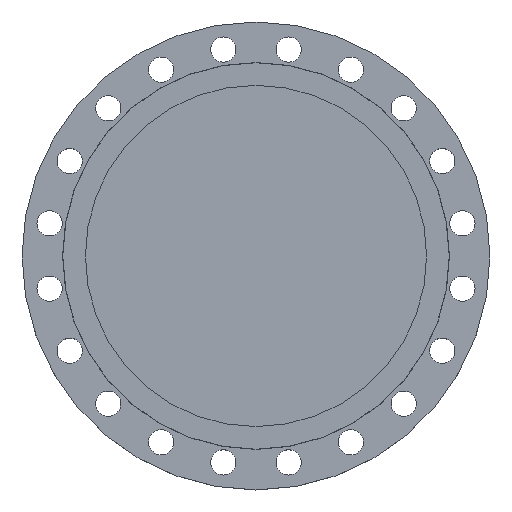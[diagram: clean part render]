
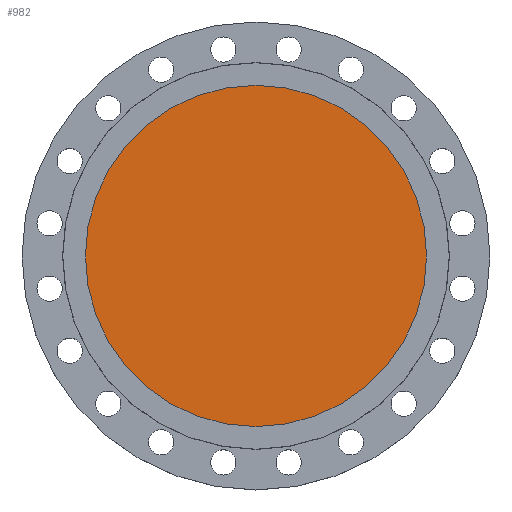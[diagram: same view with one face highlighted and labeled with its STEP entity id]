
A CAD part, top view. The second image highlights one B-rep face of the part: STEP entity #982.
In plain terms, the highlighted planar face has unit normal (0, 0, 1).
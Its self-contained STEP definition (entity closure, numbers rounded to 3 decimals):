
#173 = CARTESIAN_POINT ( 'NONE',  ( 324.5, 0., -5.5 ) ) ;
#181 = DIRECTION ( 'NONE',  ( -1., 0., 0. ) ) ;
#182 = DIRECTION ( 'NONE',  ( 0., 0., -1. ) ) ;
#183 = CARTESIAN_POINT ( 'NONE',  ( 0., 0., -5.5 ) ) ;
#459 = VERTEX_POINT ( 'NONE', #964 ) ;
#634 = EDGE_CURVE ( 'NONE', #1830, #459, #1106, .T. ) ;
#658 = DIRECTION ( 'NONE',  ( 1., 0., 0. ) ) ;
#659 = DIRECTION ( 'NONE',  ( 0., 0., 1. ) ) ;
#660 = CARTESIAN_POINT ( 'NONE',  ( 0., 0., -5.5 ) ) ;
#661 = PLANE ( 'NONE',  #1139 ) ;
#662 = FACE_OUTER_BOUND ( 'NONE', #1756, .T. ) ;
#852 = DIRECTION ( 'NONE',  ( -1., 0., 0. ) ) ;
#853 = DIRECTION ( 'NONE',  ( 0., 0., -1. ) ) ;
#854 = CARTESIAN_POINT ( 'NONE',  ( 0., 0., -5.5 ) ) ;
#964 = CARTESIAN_POINT ( 'NONE',  ( -324.5, 0., -5.5 ) ) ;
#982 = ADVANCED_FACE ( 'NONE', ( #662 ), #661, .T. ) ;
#1066 = CIRCLE ( 'NONE', #1380, 324.5 ) ;
#1106 = CIRCLE ( 'NONE', #1132, 324.5 ) ;
#1132 = AXIS2_PLACEMENT_3D ( 'NONE', #854, #853, #852 ) ;
#1139 = AXIS2_PLACEMENT_3D ( 'NONE', #660, #659, #658 ) ;
#1380 = AXIS2_PLACEMENT_3D ( 'NONE', #183, #182, #181 ) ;
#1462 = ORIENTED_EDGE ( 'NONE', *, *, #1824, .F. ) ;
#1464 = ORIENTED_EDGE ( 'NONE', *, *, #634, .F. ) ;
#1756 = EDGE_LOOP ( 'NONE', ( #1462, #1464 ) ) ;
#1824 = EDGE_CURVE ( 'NONE', #459, #1830, #1066, .T. ) ;
#1830 = VERTEX_POINT ( 'NONE', #173 ) ;
